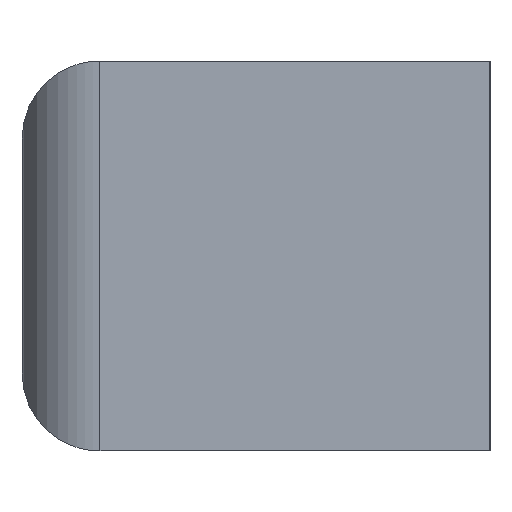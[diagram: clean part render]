
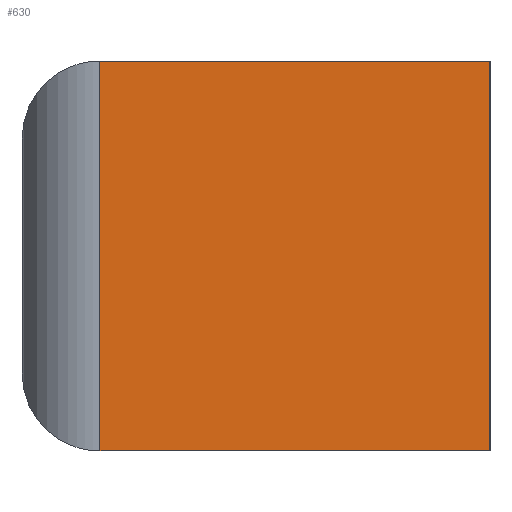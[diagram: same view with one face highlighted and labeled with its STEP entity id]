
A CAD part, left-side view. The second image highlights one B-rep face of the part: STEP entity #630.
In plain terms, the highlighted planar face has unit normal (-1, 0, 0).
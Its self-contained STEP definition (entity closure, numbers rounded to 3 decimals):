
#5=DIRECTION('',(0.,-1.,0.));
#6=VECTOR('',#5,25.);
#7=CARTESIAN_POINT('',(-110.,-5.,-12.5));
#8=LINE('',#7,#6);
#64=DIRECTION('',(0.,0.,1.));
#65=VECTOR('',#64,25.);
#66=CARTESIAN_POINT('',(-110.,-30.,-12.5));
#67=LINE('',#66,#65);
#72=DIRECTION('',(0.,0.,-1.));
#73=VECTOR('',#72,25.);
#74=CARTESIAN_POINT('',(-110.,-5.,12.5));
#75=LINE('',#74,#73);
#160=DIRECTION('',(0.,-1.,0.));
#161=VECTOR('',#160,25.);
#162=CARTESIAN_POINT('',(-110.,-5.,12.5));
#163=LINE('',#162,#161);
#411=CARTESIAN_POINT('',(-110.,-30.,-12.5));
#412=CARTESIAN_POINT('',(-110.,-30.,12.5));
#413=VERTEX_POINT('',#411);
#414=VERTEX_POINT('',#412);
#427=CARTESIAN_POINT('',(-110.,-5.,-12.5));
#429=VERTEX_POINT('',#427);
#439=CARTESIAN_POINT('',(-110.,-5.,12.5));
#440=VERTEX_POINT('',#439);
#617=CARTESIAN_POINT('',(-110.,0.,-12.5));
#618=DIRECTION('',(-1.,0.,0.));
#619=DIRECTION('',(0.,-1.,0.));
#620=AXIS2_PLACEMENT_3D('',#617,#618,#619);
#621=PLANE('',#620);
#623=ORIENTED_EDGE('',*,*,#622,.F.);
#625=ORIENTED_EDGE('',*,*,#624,.T.);
#626=ORIENTED_EDGE('',*,*,#595,.F.);
#627=ORIENTED_EDGE('',*,*,#516,.F.);
#628=EDGE_LOOP('',(#623,#625,#626,#627));
#629=FACE_OUTER_BOUND('',#628,.F.);
#630=ADVANCED_FACE('',(#629),#621,.T.);
#516=EDGE_CURVE('',#429,#413,#8,.T.);
#595=EDGE_CURVE('',#413,#414,#67,.T.);
#622=EDGE_CURVE('',#440,#429,#75,.T.);
#624=EDGE_CURVE('',#440,#414,#163,.T.);
